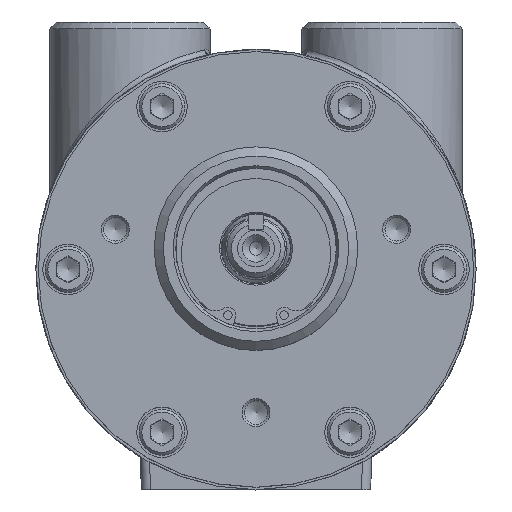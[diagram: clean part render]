
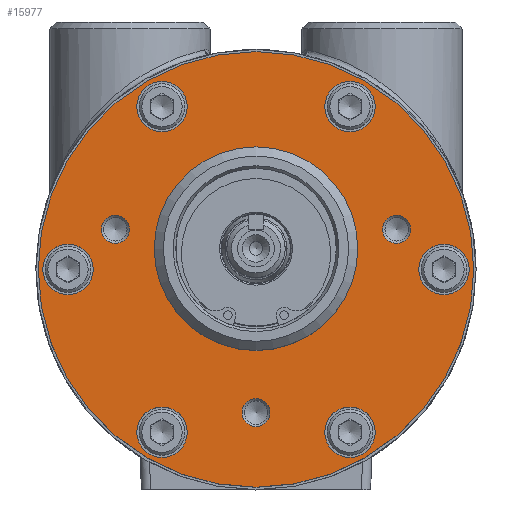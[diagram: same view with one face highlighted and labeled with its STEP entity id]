
A CAD part, top view. The second image highlights one B-rep face of the part: STEP entity #15977.
In plain terms, the highlighted planar face has unit normal (0, 0, 1).
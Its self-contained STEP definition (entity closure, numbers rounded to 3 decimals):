
#5 = CARTESIAN_POINT ( 'NONE',  ( 20.5, -41.007, 38.05 ) ) ;
#185 = DIRECTION ( 'NONE',  ( 1., 0., 0. ) ) ;
#194 = DIRECTION ( 'NONE',  ( 0., 0., -1. ) ) ;
#785 = DIRECTION ( 'NONE',  ( 0., -1., 0. ) ) ;
#895 = DIRECTION ( 'NONE',  ( 0., 0., 1. ) ) ;
#932 = DIRECTION ( 'NONE',  ( 0., 0., 1. ) ) ;
#1023 = ORIENTED_EDGE ( 'NONE', *, *, #6163, .F. ) ;
#1271 = EDGE_LOOP ( 'NONE', ( #12632 ) ) ;
#1637 = EDGE_LOOP ( 'NONE', ( #11107 ) ) ;
#1704 = EDGE_CURVE ( 'NONE', #3741, #3741, #13559, .T. ) ;
#2069 = FACE_BOUND ( 'NONE', #5356, .T. ) ;
#2158 = FACE_BOUND ( 'NONE', #9683, .T. ) ;
#2547 = ORIENTED_EDGE ( 'NONE', *, *, #1704, .F. ) ;
#2590 = EDGE_LOOP ( 'NONE', ( #8475 ) ) ;
#2712 = CIRCLE ( 'NONE', #15552, 5.5 ) ;
#2716 = CARTESIAN_POINT ( 'NONE',  ( 20.5, 30.007, 38.05 ) ) ;
#2779 = EDGE_LOOP ( 'NONE', ( #1023 ) ) ;
#2982 = AXIS2_PLACEMENT_3D ( 'NONE', #10400, #10497, #785 ) ;
#3135 = EDGE_LOOP ( 'NONE', ( #14532 ) ) ;
#3356 = CARTESIAN_POINT ( 'NONE',  ( -20.5, 30.007, 38.05 ) ) ;
#3397 = FACE_BOUND ( 'NONE', #1637, .T. ) ;
#3656 = CARTESIAN_POINT ( 'NONE',  ( -20.5, 35.507, 38.05 ) ) ;
#3668 = FACE_BOUND ( 'NONE', #2590, .T. ) ;
#3741 = VERTEX_POINT ( 'NONE', #12245 ) ;
#4133 = VERTEX_POINT ( 'NONE', #9804 ) ;
#4344 = EDGE_CURVE ( 'NONE', #15800, #15800, #14812, .T. ) ;
#4403 = VERTEX_POINT ( 'NONE', #5719 ) ;
#4519 = CIRCLE ( 'NONE', #14939, 3.053 ) ;
#4645 = DIRECTION ( 'NONE',  ( 0., -1., 0. ) ) ;
#4719 = DIRECTION ( 'NONE',  ( 0., 1., 0. ) ) ;
#5036 = CARTESIAN_POINT ( 'NONE',  ( -27.617, 8.75, 38.05 ) ) ;
#5083 = FACE_BOUND ( 'NONE', #6750, .T. ) ;
#5212 = DIRECTION ( 'NONE',  ( 0., 0., 1. ) ) ;
#5356 = EDGE_LOOP ( 'NONE', ( #16706 ) ) ;
#5398 = CARTESIAN_POINT ( 'NONE',  ( 20.5, 35.507, 38.05 ) ) ;
#5629 = VERTEX_POINT ( 'NONE', #11298 ) ;
#5719 = CARTESIAN_POINT ( 'NONE',  ( 3.053, -31.22, 38.05 ) ) ;
#5740 = EDGE_CURVE ( 'NONE', #5809, #5809, #9573, .T. ) ;
#5809 = VERTEX_POINT ( 'NONE', #5 ) ;
#5821 = AXIS2_PLACEMENT_3D ( 'NONE', #7713, #895, #6611 ) ;
#5951 = EDGE_CURVE ( 'NONE', #5629, #5629, #11064, .T. ) ;
#6068 = EDGE_CURVE ( 'NONE', #4403, #4403, #4519, .T. ) ;
#6121 = CARTESIAN_POINT ( 'NONE',  ( -39.6, -10.6, 38.05 ) ) ;
#6163 = EDGE_CURVE ( 'NONE', #4133, #4133, #12275, .T. ) ;
#6170 = VERTEX_POINT ( 'NONE', #3356 ) ;
#6174 = DIRECTION ( 'NONE',  ( 0., 0., 1. ) ) ;
#6257 = VERTEX_POINT ( 'NONE', #7554 ) ;
#6411 = ORIENTED_EDGE ( 'NONE', *, *, #10646, .F. ) ;
#6611 = DIRECTION ( 'NONE',  ( 1., 0., 0. ) ) ;
#6636 = DIRECTION ( 'NONE',  ( 0., -1., 0. ) ) ;
#6717 = VERTEX_POINT ( 'NONE', #5036 ) ;
#6750 = EDGE_LOOP ( 'NONE', ( #12528 ) ) ;
#6885 = AXIS2_PLACEMENT_3D ( 'NONE', #3656, #932, #12435 ) ;
#7554 = CARTESIAN_POINT ( 'NONE',  ( -41., -5.5, 38.05 ) ) ;
#7713 = CARTESIAN_POINT ( 'NONE',  ( -30.67, 8.75, 38.05 ) ) ;
#7763 = DIRECTION ( 'NONE',  ( 0., 0., 1. ) ) ;
#7766 = FACE_BOUND ( 'NONE', #2779, .T. ) ;
#8127 = DIRECTION ( 'NONE',  ( 0., -1., 0. ) ) ;
#8231 = EDGE_LOOP ( 'NONE', ( #18256 ) ) ;
#8475 = ORIENTED_EDGE ( 'NONE', *, *, #15252, .F. ) ;
#8683 = CARTESIAN_POINT ( 'NONE',  ( 30.67, 8.75, 38.05 ) ) ;
#8788 = AXIS2_PLACEMENT_3D ( 'NONE', #17450, #15857, #4645 ) ;
#8835 = AXIS2_PLACEMENT_3D ( 'NONE', #5398, #5212, #13907 ) ;
#8999 = FACE_BOUND ( 'NONE', #9798, .T. ) ;
#9232 = CARTESIAN_POINT ( 'NONE',  ( -41., 0., 38.05 ) ) ;
#9336 = DIRECTION ( 'NONE',  ( 0., 0., 1. ) ) ;
#9404 = EDGE_CURVE ( 'NONE', #14755, #14755, #16414, .T. ) ;
#9573 = CIRCLE ( 'NONE', #14069, 5.5 ) ;
#9683 = EDGE_LOOP ( 'NONE', ( #6411 ) ) ;
#9798 = EDGE_LOOP ( 'NONE', ( #12914 ) ) ;
#9804 = CARTESIAN_POINT ( 'NONE',  ( 0., -17.7, 38.05 ) ) ;
#10400 = CARTESIAN_POINT ( 'NONE',  ( -20.5, -35.507, 38.05 ) ) ;
#10443 = CARTESIAN_POINT ( 'NONE',  ( 0., -31.22, 38.05 ) ) ;
#10489 = EDGE_CURVE ( 'NONE', #6170, #6170, #17058, .T. ) ;
#10497 = DIRECTION ( 'NONE',  ( 0., 0., 1. ) ) ;
#10544 = AXIS2_PLACEMENT_3D ( 'NONE', #8683, #6174, #185 ) ;
#10646 = EDGE_CURVE ( 'NONE', #6257, #6257, #2712, .T. ) ;
#10805 = CARTESIAN_POINT ( 'NONE',  ( 41., -5.5, 38.05 ) ) ;
#10845 = CARTESIAN_POINT ( 'NONE',  ( 20.5, -35.507, 38.05 ) ) ;
#11064 = CIRCLE ( 'NONE', #13472, 47.5 ) ;
#11107 = ORIENTED_EDGE ( 'NONE', *, *, #9404, .F. ) ;
#11298 = CARTESIAN_POINT ( 'NONE',  ( 0., 47.5, 38.05 ) ) ;
#11574 = CARTESIAN_POINT ( 'NONE',  ( -20.5, -41.007, 38.05 ) ) ;
#11798 = DIRECTION ( 'NONE',  ( 0., 0., -1. ) ) ;
#11867 = DIRECTION ( 'NONE',  ( 0., 1., 0. ) ) ;
#11975 = AXIS2_PLACEMENT_3D ( 'NONE', #13384, #9336, #6636 ) ;
#12245 = CARTESIAN_POINT ( 'NONE',  ( 33.723, 8.75, 38.05 ) ) ;
#12275 = CIRCLE ( 'NONE', #11975, 22.2 ) ;
#12311 = VERTEX_POINT ( 'NONE', #10805 ) ;
#12435 = DIRECTION ( 'NONE',  ( 0., -1., 0. ) ) ;
#12528 = ORIENTED_EDGE ( 'NONE', *, *, #5740, .F. ) ;
#12632 = ORIENTED_EDGE ( 'NONE', *, *, #6068, .F. ) ;
#12914 = ORIENTED_EDGE ( 'NONE', *, *, #4344, .F. ) ;
#13221 = PLANE ( 'NONE',  #15373 ) ;
#13384 = CARTESIAN_POINT ( 'NONE',  ( 0., 4.5, 38.05 ) ) ;
#13472 = AXIS2_PLACEMENT_3D ( 'NONE', #15983, #194, #11867 ) ;
#13492 = FACE_BOUND ( 'NONE', #17762, .T. ) ;
#13559 = CIRCLE ( 'NONE', #10544, 3.053 ) ;
#13907 = DIRECTION ( 'NONE',  ( 0., -1., 0. ) ) ;
#14069 = AXIS2_PLACEMENT_3D ( 'NONE', #10845, #7763, #8127 ) ;
#14470 = CIRCLE ( 'NONE', #5821, 3.053 ) ;
#14532 = ORIENTED_EDGE ( 'NONE', *, *, #15536, .F. ) ;
#14592 = DIRECTION ( 'NONE',  ( 0., 0., 1. ) ) ;
#14755 = VERTEX_POINT ( 'NONE', #11574 ) ;
#14812 = CIRCLE ( 'NONE', #8835, 5.5 ) ;
#14939 = AXIS2_PLACEMENT_3D ( 'NONE', #10443, #14592, #16174 ) ;
#14976 = FACE_OUTER_BOUND ( 'NONE', #8231, .T. ) ;
#15252 = EDGE_CURVE ( 'NONE', #6717, #6717, #14470, .T. ) ;
#15373 = AXIS2_PLACEMENT_3D ( 'NONE', #6121, #11798, #4719 ) ;
#15536 = EDGE_CURVE ( 'NONE', #12311, #12311, #15673, .T. ) ;
#15552 = AXIS2_PLACEMENT_3D ( 'NONE', #9232, #16712, #16344 ) ;
#15673 = CIRCLE ( 'NONE', #8788, 5.5 ) ;
#15800 = VERTEX_POINT ( 'NONE', #2716 ) ;
#15857 = DIRECTION ( 'NONE',  ( 0., 0., 1. ) ) ;
#15977 = ADVANCED_FACE ( 'NONE', ( #14976, #2158, #3397, #5083, #16287, #8999, #2069, #7766, #13492, #16478, #3668 ), #13221, .F. ) ;
#15983 = CARTESIAN_POINT ( 'NONE',  ( 0., 0., 38.05 ) ) ;
#16174 = DIRECTION ( 'NONE',  ( 1., 0., 0. ) ) ;
#16287 = FACE_BOUND ( 'NONE', #3135, .T. ) ;
#16344 = DIRECTION ( 'NONE',  ( 0., -1., 0. ) ) ;
#16414 = CIRCLE ( 'NONE', #2982, 5.5 ) ;
#16478 = FACE_BOUND ( 'NONE', #1271, .T. ) ;
#16706 = ORIENTED_EDGE ( 'NONE', *, *, #10489, .F. ) ;
#16712 = DIRECTION ( 'NONE',  ( 0., 0., 1. ) ) ;
#17058 = CIRCLE ( 'NONE', #6885, 5.5 ) ;
#17450 = CARTESIAN_POINT ( 'NONE',  ( 41., 0., 38.05 ) ) ;
#17762 = EDGE_LOOP ( 'NONE', ( #2547 ) ) ;
#18256 = ORIENTED_EDGE ( 'NONE', *, *, #5951, .F. ) ;
